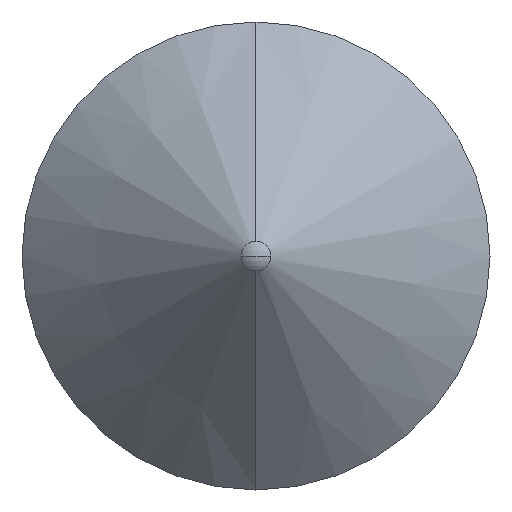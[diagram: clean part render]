
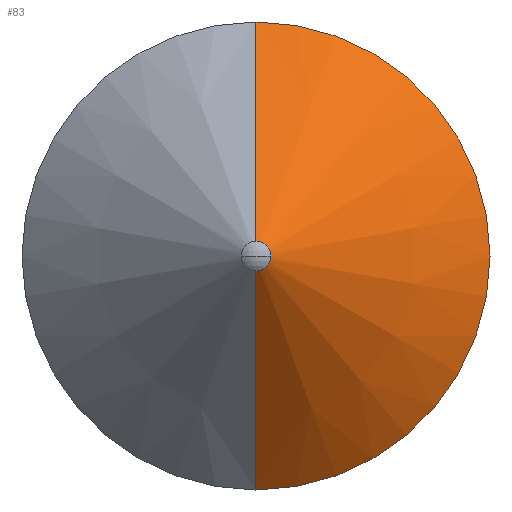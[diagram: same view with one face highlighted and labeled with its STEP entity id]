
A CAD part, left-side view. The second image highlights one B-rep face of the part: STEP entity #83.
In plain terms, the highlighted conical face has half-angle 48.433 degrees and reference radius 0.028 mm.
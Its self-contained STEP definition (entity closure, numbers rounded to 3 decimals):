
#10 = DIRECTION ( 'NONE',  ( 0., 0., 1. ) ) ;
#26 = CARTESIAN_POINT ( 'NONE',  ( 0.65, 0.021, 0. ) ) ;
#34 = CARTESIAN_POINT ( 'NONE',  ( 0.65, 0.021, 0.445 ) ) ;
#54 = DIRECTION ( 'NONE',  ( 0., 0., 1. ) ) ;
#76 = CARTESIAN_POINT ( 'NONE',  ( 0.65, 0.021, -0.445 ) ) ;
#83 = ADVANCED_FACE ( 'NONE', ( #557 ), #501, .T. ) ;
#89 = AXIS2_PLACEMENT_3D ( 'NONE', #26, #596, #10 ) ;
#93 = CARTESIAN_POINT ( 'NONE',  ( 0.28, 0.021, 0. ) ) ;
#101 = CIRCLE ( 'NONE', #89, 0.445 ) ;
#102 = DIRECTION ( 'NONE',  ( -1., 0., 0. ) ) ;
#117 = CIRCLE ( 'NONE', #169, 0.028 ) ;
#119 = DIRECTION ( 'NONE',  ( 0.663, 0., -0.748 ) ) ;
#146 = DIRECTION ( 'NONE',  ( 0., 0., -1. ) ) ;
#155 = CARTESIAN_POINT ( 'NONE',  ( 0.28, 0.021, 0. ) ) ;
#156 = ORIENTED_EDGE ( 'NONE', *, *, #377, .F. ) ;
#169 = AXIS2_PLACEMENT_3D ( 'NONE', #155, #102, #469 ) ;
#177 = AXIS2_PLACEMENT_3D ( 'NONE', #467, #475, #54 ) ;
#183 = EDGE_CURVE ( 'NONE', #433, #487, #117, .T. ) ;
#188 = CARTESIAN_POINT ( 'NONE',  ( 0.28, 0.021, 0.028 ) ) ;
#210 = AXIS2_PLACEMENT_3D ( 'NONE', #93, #500, #146 ) ;
#219 = ORIENTED_EDGE ( 'NONE', *, *, #420, .T. ) ;
#264 = CARTESIAN_POINT ( 'NONE',  ( 0.28, 0.021, -0.028 ) ) ;
#291 = VECTOR ( 'NONE', #119, 1000. ) ;
#341 = LINE ( 'NONE', #188, #628 ) ;
#355 = VERTEX_POINT ( 'NONE', #34 ) ;
#361 = ORIENTED_EDGE ( 'NONE', *, *, #183, .F. ) ;
#368 = LINE ( 'NONE', #516, #291 ) ;
#377 = EDGE_CURVE ( 'NONE', #487, #355, #341, .T. ) ;
#379 = ORIENTED_EDGE ( 'NONE', *, *, #598, .T. ) ;
#380 = DIRECTION ( 'NONE',  ( 0.663, 0., 0.748 ) ) ;
#402 = VERTEX_POINT ( 'NONE', #76 ) ;
#420 = EDGE_CURVE ( 'NONE', #402, #355, #101, .T. ) ;
#433 = VERTEX_POINT ( 'NONE', #610 ) ;
#453 = EDGE_LOOP ( 'NONE', ( #156, #361, #482, #379, #219 ) ) ;
#467 = CARTESIAN_POINT ( 'NONE',  ( 0.28, 0.021, 0. ) ) ;
#469 = DIRECTION ( 'NONE',  ( 0., 0., 1. ) ) ;
#475 = DIRECTION ( 'NONE',  ( -1., 0., 0. ) ) ;
#482 = ORIENTED_EDGE ( 'NONE', *, *, #619, .F. ) ;
#487 = VERTEX_POINT ( 'NONE', #499 ) ;
#499 = CARTESIAN_POINT ( 'NONE',  ( 0.28, 0.021, 0.028 ) ) ;
#500 = DIRECTION ( 'NONE',  ( 1., 0., 0. ) ) ;
#501 = CONICAL_SURFACE ( 'NONE', #210, 0.028, 0.845 ) ;
#516 = CARTESIAN_POINT ( 'NONE',  ( 0.28, 0.021, -0.028 ) ) ;
#536 = CIRCLE ( 'NONE', #177, 0.028 ) ;
#557 = FACE_OUTER_BOUND ( 'NONE', #453, .T. ) ;
#590 = VERTEX_POINT ( 'NONE', #264 ) ;
#596 = DIRECTION ( 'NONE',  ( -1., 0., 0. ) ) ;
#598 = EDGE_CURVE ( 'NONE', #590, #402, #368, .T. ) ;
#610 = CARTESIAN_POINT ( 'NONE',  ( 0.28, -0.008, 0. ) ) ;
#619 = EDGE_CURVE ( 'NONE', #590, #433, #536, .T. ) ;
#628 = VECTOR ( 'NONE', #380, 1000. ) ;
